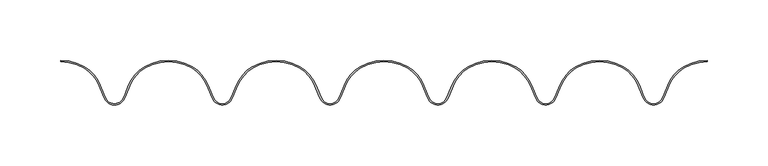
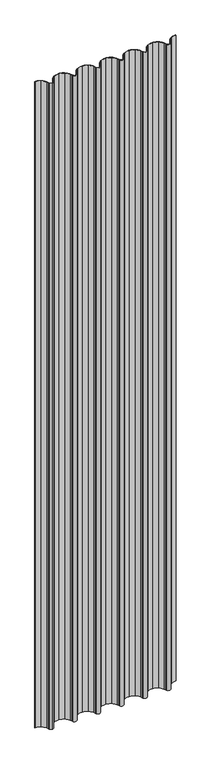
"""IFC4 building model written with IfcOpenShell, lengths in millimetres: plate geometry, Regolare Couverture 534  : Regolare Couverture 534 ."""

from ifc_helpers import new_model, si_unit, point, frame_2d, origin, origin_with_axes, place, context, project, spatial, polyline, circle_curve, trimmed, segment, composite_curve, outline, extrude, source, transform, mapped, element, save


def plate_e4038a5f(model_context):
    return source(origin(), model_context, "Body", "SweptSolid", [
        extrude(outline(composite_curve([segment(trimmed(circle_curve(frame_2d((-267.1544672, -1.5098563)), 37.4503244), [point((-247.6137171, 30.4383187))], [point((-267.1544672, 35.9404682))], True, "CARTESIAN"), True, "CONTINUOUS"), segment(polyline([(-267.1544672, 35.9404682), (-267.1544672, 36.9404682)]), True, "CONTINUOUS"), segment(trimmed(circle_curve(frame_2d((-267.1544672, -1.5098563)), 38.4503244), [point((-267.1544672, 36.9404682))], [point((-247.0919392, 31.2914001))], False, "CARTESIAN"), True, "CONTINUOUS"), segment(trimmed(circle_curve(frame_2d((-263.588822, 4.3198001)), 31.6166783), [point((-247.0919392, 31.2914001))], [point((-234.2333378, 16.0616012))], False, "CARTESIAN"), True, "CONTINUOUS"), segment(polyline([(-234.2333378, 16.0616012), (-231.3641161, 8.8980757), (-229.7177623, 5.4633665)]), True, "CONTINUOUS"), segment(trimmed(circle_curve(frame_2d((-222.6287227, 8.8613445)), 7.8613445), [point((-229.7177623, 5.4633665))], [point((-222.6287227, 1.0))], True, "CARTESIAN"), True, "CONTINUOUS"), segment(trimmed(circle_curve(frame_2d((-222.6287227, 8.8613445)), 7.8613445), [point((-222.6287227, 1.0))], [point((-215.5396831, 5.4633665))], True, "CARTESIAN"), True, "CONTINUOUS"), segment(polyline([(-215.5396831, 5.4633665), (-213.8933293, 8.8980757), (-211.0241076, 16.0616012)]), True, "CONTINUOUS"), segment(trimmed(circle_curve(frame_2d((-181.6686234, 4.3198001)), 31.6166783), [point((-211.0241076, 16.0616012))], [point((-198.1655062, 31.2914001))], False, "CARTESIAN"), True, "CONTINUOUS"), segment(trimmed(circle_curve(frame_2d((-178.1029782, -1.5098563)), 38.4503244), [point((-198.1655062, 31.2914001))], [point((-178.1029782, 36.9404682))], False, "CARTESIAN"), True, "CONTINUOUS"), segment(trimmed(circle_curve(frame_2d((-178.1029782, -1.5098563)), 38.4503244), [point((-178.1029782, 36.9404682))], [point((-158.0404502, 31.2914001))], False, "CARTESIAN"), True, "CONTINUOUS"), segment(trimmed(circle_curve(frame_2d((-174.5373329, 4.3198001)), 31.6166783), [point((-158.0404502, 31.2914001))], [point((-145.1818487, 16.0616012))], False, "CARTESIAN"), True, "CONTINUOUS"), segment(polyline([(-145.1818487, 16.0616012), (-142.312627, 8.8980757), (-140.6662733, 5.4633665)]), True, "CONTINUOUS"), segment(trimmed(circle_curve(frame_2d((-133.5772336, 8.8613445)), 7.8613445), [point((-140.6662733, 5.4633665))], [point((-126.488194, 5.4633665))], True, "CARTESIAN"), True, "CONTINUOUS"), segment(polyline([(-126.488194, 5.4633665), (-124.8418403, 8.8980757), (-121.9726185, 16.0616012)]), True, "CONTINUOUS"), segment(trimmed(circle_curve(frame_2d((-92.6171343, 4.3198001)), 31.6166783), [point((-121.9726185, 16.0616012))], [point((-109.1140171, 31.2914001))], False, "CARTESIAN"), True, "CONTINUOUS"), segment(trimmed(circle_curve(frame_2d((-89.0514891, -1.5098563)), 38.4503244), [point((-109.1140171, 31.2914001))], [point((-89.0514891, 36.9404682))], False, "CARTESIAN"), True, "CONTINUOUS"), segment(trimmed(circle_curve(frame_2d((-89.0514891, -1.5098563)), 38.4503244), [point((-89.0514891, 36.9404682))], [point((-68.9889611, 31.2914001))], False, "CARTESIAN"), True, "CONTINUOUS"), segment(trimmed(circle_curve(frame_2d((-85.4858438, 4.3198001)), 31.6166783), [point((-68.9889611, 31.2914001))], [point((-56.1303596, 16.0616012))], False, "CARTESIAN"), True, "CONTINUOUS"), segment(polyline([(-56.1303596, 16.0616012), (-53.2611379, 8.8980757), (-51.6147842, 5.4633665)]), True, "CONTINUOUS"), segment(trimmed(circle_curve(frame_2d((-44.5257445, 8.8613445)), 7.8613445), [point((-51.6147842, 5.4633665))], [point((-37.4367049, 5.4633665))], True, "CARTESIAN"), True, "CONTINUOUS"), segment(polyline([(-37.4367049, 5.4633665), (-35.7903512, 8.8980757), (-32.9211295, 16.0616012)]), True, "CONTINUOUS"), segment(trimmed(circle_curve(frame_2d((-3.5656452, 4.3198001)), 31.6166783), [point((-32.9211295, 16.0616012))], [point((-20.062528, 31.2914001))], False, "CARTESIAN"), True, "CONTINUOUS"), segment(trimmed(circle_curve(frame_2d((0.0, -1.5098563)), 38.4503244), [point((-20.062528, 31.2914001))], [point((0.0, 36.9404682))], False, "CARTESIAN"), True, "CONTINUOUS"), segment(trimmed(circle_curve(frame_2d((0.0, -1.5098563)), 38.4503244), [point((0.0, 36.9404682))], [point((20.062528, 31.2914001))], False, "CARTESIAN"), True, "CONTINUOUS"), segment(trimmed(circle_curve(frame_2d((3.5656452, 4.3198001)), 31.6166783), [point((20.062528, 31.2914001))], [point((32.9211295, 16.0616012))], False, "CARTESIAN"), True, "CONTINUOUS"), segment(polyline([(32.9211295, 16.0616012), (35.7903512, 8.8980757), (37.4367049, 5.4633665)]), True, "CONTINUOUS"), segment(trimmed(circle_curve(frame_2d((44.5257445, 8.8613445)), 7.8613445), [point((37.4367049, 5.4633665))], [point((51.6147842, 5.4633665))], True, "CARTESIAN"), True, "CONTINUOUS"), segment(polyline([(51.6147842, 5.4633665), (53.2611379, 8.8980757), (56.1303596, 16.0616012)]), True, "CONTINUOUS"), segment(trimmed(circle_curve(frame_2d((85.4858438, 4.3198001)), 31.6166783), [point((56.1303596, 16.0616012))], [point((68.9889611, 31.2914001))], False, "CARTESIAN"), True, "CONTINUOUS"), segment(trimmed(circle_curve(frame_2d((89.0514891, -1.5098563)), 38.4503244), [point((68.9889611, 31.2914001))], [point((89.0514891, 36.9404682))], False, "CARTESIAN"), True, "CONTINUOUS"), segment(trimmed(circle_curve(frame_2d((89.0514891, -1.5098563)), 38.4503244), [point((89.0514891, 36.9404682))], [point((109.1140171, 31.2914001))], False, "CARTESIAN"), True, "CONTINUOUS"), segment(trimmed(circle_curve(frame_2d((92.6171343, 4.3198001)), 31.6166783), [point((109.1140171, 31.2914001))], [point((121.9726185, 16.0616012))], False, "CARTESIAN"), True, "CONTINUOUS"), segment(polyline([(121.9726185, 16.0616012), (124.8418403, 8.8980757), (126.488194, 5.4633665)]), True, "CONTINUOUS"), segment(trimmed(circle_curve(frame_2d((133.5772336, 8.8613445)), 7.8613445), [point((126.488194, 5.4633665))], [point((140.6662733, 5.4633665))], True, "CARTESIAN"), True, "CONTINUOUS"), segment(polyline([(140.6662733, 5.4633665), (142.312627, 8.8980757), (145.1818487, 16.0616012)]), True, "CONTINUOUS"), segment(trimmed(circle_curve(frame_2d((174.5373329, 4.3198001)), 31.6166783), [point((145.1818487, 16.0616012))], [point((158.0404502, 31.2914001))], False, "CARTESIAN"), True, "CONTINUOUS"), segment(trimmed(circle_curve(frame_2d((178.1029782, -1.5098563)), 38.4503244), [point((158.0404502, 31.2914001))], [point((178.1029782, 36.9404682))], False, "CARTESIAN"), True, "CONTINUOUS"), segment(trimmed(circle_curve(frame_2d((178.1029782, -1.5098563)), 38.4503244), [point((178.1029782, 36.9404682))], [point((198.1655062, 31.2914001))], False, "CARTESIAN"), True, "CONTINUOUS"), segment(trimmed(circle_curve(frame_2d((181.6686234, 4.3198001)), 31.6166783), [point((198.1655062, 31.2914001))], [point((211.0241076, 16.0616012))], False, "CARTESIAN"), True, "CONTINUOUS"), segment(polyline([(211.0241076, 16.0616012), (213.8933293, 8.8980757), (215.5396831, 5.4633665)]), True, "CONTINUOUS"), segment(trimmed(circle_curve(frame_2d((222.6287227, 8.8613445)), 7.8613445), [point((215.5396831, 5.4633665))], [point((229.7177623, 5.4633665))], True, "CARTESIAN"), True, "CONTINUOUS"), segment(polyline([(229.7177623, 5.4633665), (231.3641161, 8.8980757), (234.2333378, 16.0616012)]), True, "CONTINUOUS"), segment(trimmed(circle_curve(frame_2d((263.588822, 4.3198001)), 31.6166783), [point((234.2333378, 16.0616012))], [point((247.0919392, 31.2914001))], False, "CARTESIAN"), True, "CONTINUOUS"), segment(trimmed(circle_curve(frame_2d((267.1544672, -1.5098563)), 38.4503244), [point((247.0919392, 31.2914001))], [point((267.1544672, 36.9404682))], False, "CARTESIAN"), True, "CONTINUOUS"), segment(polyline([(267.1544672, 36.9404682), (267.1544672, 35.9404682)]), True, "CONTINUOUS"), segment(trimmed(circle_curve(frame_2d((267.1544672, -1.5098563)), 37.4503244), [point((267.1544672, 35.9404682))], [point((247.6137171, 30.4383187))], True, "CARTESIAN"), True, "CONTINUOUS"), segment(trimmed(circle_curve(frame_2d((263.588822, 4.3198001)), 30.6166783), [point((247.6137171, 30.4383187))], [point((235.1617322, 15.6900047))], True, "CARTESIAN"), True, "CONTINUOUS"), segment(polyline([(235.1617322, 15.6900047), (232.2801463, 8.4956098), (230.6195215, 5.0311277)]), True, "CONTINUOUS"), segment(trimmed(circle_curve(frame_2d((222.6287227, 8.8613445)), 8.8613445), [point((230.6195215, 5.0311277))], [point((214.6379239, 5.0311277))], False, "CARTESIAN"), True, "CONTINUOUS"), segment(polyline([(214.6379239, 5.0311277), (212.9772992, 8.4956098), (210.0957132, 15.6900047)]), True, "CONTINUOUS"), segment(trimmed(circle_curve(frame_2d((181.6686234, 4.3198001)), 30.6166783), [point((210.0957132, 15.6900047))], [point((197.6437283, 30.4383187))], True, "CARTESIAN"), True, "CONTINUOUS"), segment(trimmed(circle_curve(frame_2d((178.1029782, -1.5098563)), 37.4503244), [point((197.6437283, 30.4383187))], [point((178.1029782, 35.9404682))], True, "CARTESIAN"), True, "CONTINUOUS"), segment(trimmed(circle_curve(frame_2d((178.1029782, -1.5098563)), 37.4503244), [point((178.1029782, 35.9404682))], [point((158.562228, 30.4383187))], True, "CARTESIAN"), True, "CONTINUOUS"), segment(trimmed(circle_curve(frame_2d((174.5373329, 4.3198001)), 30.6166783), [point((158.562228, 30.4383187))], [point((146.1102431, 15.6900047))], True, "CARTESIAN"), True, "CONTINUOUS"), segment(polyline([(146.1102431, 15.6900047), (143.2286572, 8.4956098), (141.5680324, 5.0311277)]), True, "CONTINUOUS"), segment(trimmed(circle_curve(frame_2d((133.5772336, 8.8613445)), 8.8613445), [point((141.5680324, 5.0311277))], [point((125.5864348, 5.0311277))], False, "CARTESIAN"), True, "CONTINUOUS"), segment(polyline([(125.5864348, 5.0311277), (123.9258101, 8.4956098), (121.0442242, 15.6900047)]), True, "CONTINUOUS"), segment(trimmed(circle_curve(frame_2d((92.6171343, 4.3198001)), 30.6166783), [point((121.0442242, 15.6900047))], [point((108.5922392, 30.4383187))], True, "CARTESIAN"), True, "CONTINUOUS"), segment(trimmed(circle_curve(frame_2d((89.0514891, -1.5098563)), 37.4503244), [point((108.5922392, 30.4383187))], [point((89.0514891, 35.9404682))], True, "CARTESIAN"), True, "CONTINUOUS"), segment(trimmed(circle_curve(frame_2d((89.0514891, -1.5098563)), 37.4503244), [point((89.0514891, 35.9404682))], [point((69.5107389, 30.4383187))], True, "CARTESIAN"), True, "CONTINUOUS"), segment(trimmed(circle_curve(frame_2d((85.4858438, 4.3198001)), 30.6166783), [point((69.5107389, 30.4383187))], [point((57.058754, 15.6900047))], True, "CARTESIAN"), True, "CONTINUOUS"), segment(polyline([(57.058754, 15.6900047), (54.1771681, 8.4956098), (52.5165434, 5.0311277)]), True, "CONTINUOUS"), segment(trimmed(circle_curve(frame_2d((44.5257445, 8.8613445)), 8.8613445), [point((52.5165434, 5.0311277))], [point((36.5349457, 5.0311277))], False, "CARTESIAN"), True, "CONTINUOUS"), segment(polyline([(36.5349457, 5.0311277), (34.874321, 8.4956098), (31.9927351, 15.6900047)]), True, "CONTINUOUS"), segment(trimmed(circle_curve(frame_2d((3.5656452, 4.3198001)), 30.6166783), [point((31.9927351, 15.6900047))], [point((19.5407501, 30.4383187))], True, "CARTESIAN"), True, "CONTINUOUS"), segment(trimmed(circle_curve(frame_2d((0.0, -1.5098563)), 37.4503244), [point((19.5407501, 30.4383187))], [point((0.0, 35.9404682))], True, "CARTESIAN"), True, "CONTINUOUS"), segment(trimmed(circle_curve(frame_2d((0.0, -1.5098563)), 37.4503244), [point((0.0, 35.9404682))], [point((-19.5407501, 30.4383187))], True, "CARTESIAN"), True, "CONTINUOUS"), segment(trimmed(circle_curve(frame_2d((-3.5656452, 4.3198001)), 30.6166783), [point((-19.5407501, 30.4383187))], [point((-31.9927351, 15.6900047))], True, "CARTESIAN"), True, "CONTINUOUS"), segment(polyline([(-31.9927351, 15.6900047), (-34.874321, 8.4956098), (-36.5349457, 5.0311277)]), True, "CONTINUOUS"), segment(trimmed(circle_curve(frame_2d((-44.5257445, 8.8613445)), 8.8613445), [point((-36.5349457, 5.0311277))], [point((-52.5165434, 5.0311277))], False, "CARTESIAN"), True, "CONTINUOUS"), segment(polyline([(-52.5165434, 5.0311277), (-54.1771681, 8.4956098), (-57.058754, 15.6900047)]), True, "CONTINUOUS"), segment(trimmed(circle_curve(frame_2d((-85.4858438, 4.3198001)), 30.6166783), [point((-57.058754, 15.6900047))], [point((-69.5107389, 30.4383187))], True, "CARTESIAN"), True, "CONTINUOUS"), segment(trimmed(circle_curve(frame_2d((-89.0514891, -1.5098563)), 37.4503244), [point((-69.5107389, 30.4383187))], [point((-89.0514891, 35.9404682))], True, "CARTESIAN"), True, "CONTINUOUS"), segment(trimmed(circle_curve(frame_2d((-89.0514891, -1.5098563)), 37.4503244), [point((-89.0514891, 35.9404682))], [point((-108.5922392, 30.4383187))], True, "CARTESIAN"), True, "CONTINUOUS"), segment(trimmed(circle_curve(frame_2d((-92.6171343, 4.3198001)), 30.6166783), [point((-108.5922392, 30.4383187))], [point((-121.0442242, 15.6900047))], True, "CARTESIAN"), True, "CONTINUOUS"), segment(polyline([(-121.0442242, 15.6900047), (-123.9258101, 8.4956098), (-125.5864348, 5.0311277)]), True, "CONTINUOUS"), segment(trimmed(circle_curve(frame_2d((-133.5772336, 8.8613445)), 8.8613445), [point((-125.5864348, 5.0311277))], [point((-141.5680324, 5.0311277))], False, "CARTESIAN"), True, "CONTINUOUS"), segment(polyline([(-141.5680324, 5.0311277), (-143.2286572, 8.4956098), (-146.1102431, 15.6900047)]), True, "CONTINUOUS"), segment(trimmed(circle_curve(frame_2d((-174.5373329, 4.3198001)), 30.6166783), [point((-146.1102431, 15.6900047))], [point((-158.562228, 30.4383187))], True, "CARTESIAN"), True, "CONTINUOUS"), segment(trimmed(circle_curve(frame_2d((-178.1029782, -1.5098563)), 37.4503244), [point((-158.562228, 30.4383187))], [point((-178.1029782, 35.9404682))], True, "CARTESIAN"), True, "CONTINUOUS"), segment(trimmed(circle_curve(frame_2d((-178.1029782, -1.5098563)), 37.4503244), [point((-178.1029782, 35.9404682))], [point((-197.6437283, 30.4383187))], True, "CARTESIAN"), True, "CONTINUOUS"), segment(trimmed(circle_curve(frame_2d((-181.6686234, 4.3198001)), 30.6166783), [point((-197.6437283, 30.4383187))], [point((-210.0957133, 15.6900047))], True, "CARTESIAN"), True, "CONTINUOUS"), segment(polyline([(-210.0957133, 15.6900047), (-212.9772992, 8.4956098), (-214.6379239, 5.0311277)]), True, "CONTINUOUS"), segment(trimmed(circle_curve(frame_2d((-222.6287227, 8.8613445)), 8.8613445), [point((-214.6379239, 5.0311277))], [point((-222.6287227, 0.0))], False, "CARTESIAN"), True, "CONTINUOUS"), segment(trimmed(circle_curve(frame_2d((-222.6287227, 8.8613445)), 8.8613445), [point((-222.6287227, 0.0))], [point((-230.6195215, 5.0311277))], False, "CARTESIAN"), True, "CONTINUOUS"), segment(polyline([(-230.6195215, 5.0311277), (-232.2801463, 8.4956098), (-235.1617322, 15.6900047)]), True, "CONTINUOUS"), segment(trimmed(circle_curve(frame_2d((-263.588822, 4.3198001)), 30.6166783), [point((-235.1617322, 15.6900047))], [point((-247.6137171, 30.4383187))], True, "CARTESIAN"), True, "CONTINUOUS")], self_intersect=False)), origin_with_axes(), (0.0, 0.0, 1.0), 2588.190451),
    ])


if __name__ == "__main__":
    model = new_model("IFC4")
    model_context = context("Model", 3, world=origin())
    ifc_project = project(units=[si_unit("LENGTHUNIT", "METRE", prefix="MILLI")], contexts=[model_context])
    site = spatial("IfcSite", under=ifc_project)
    building = spatial("IfcBuilding", under=site)
    placement = place(None, origin())
    plate_shape = plate_e4038a5f(model_context)
    element("IfcPlate", 1, ObjectType="Regolare Couverture 534  : Regolare Couverture 534 ", at=placement, inside=building, context=model_context, shape_type="MappedRepresentation", body=[
        mapped(plate_shape, transform((0.0, 0.0, 0.0), x_axis=(1.0, 0.0, 0.0), y_axis=(0.0, 1.0, 0.0), z_axis=(0.0, 0.0, 1.0))),
    ])
    save(model, "model.ifc")
